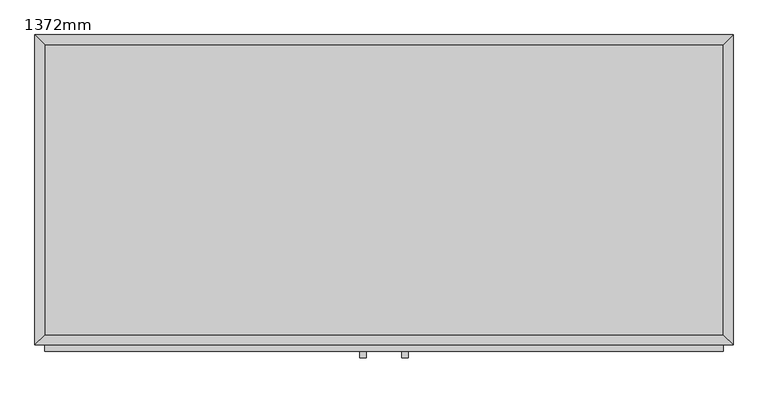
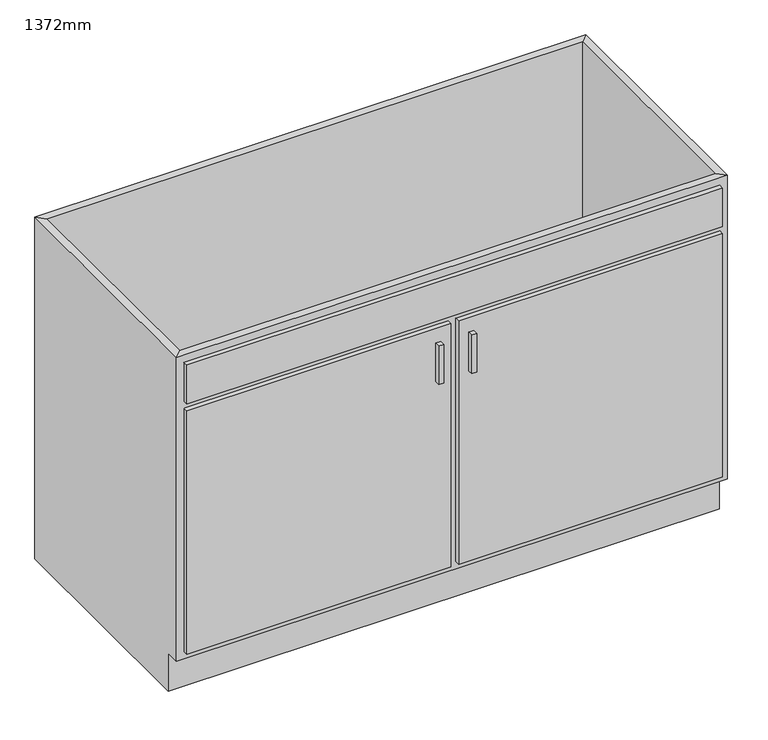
"""IFC4 building model written with IfcOpenShell, lengths in millimetres: proxy geometry, 厨房-小 : 1372mm."""

from ifc_helpers import new_model, si_unit, frame, origin, place, context, project, spatial, polyline, outline, extrude, faceted_brep, source, transform, mapped, element, save


def proxy_1372mm_f81b7602(model_context):
    return source(origin(), model_context, "Body", "SolidModel", [
        faceted_brep([(685.6877049, -590.95, 900.0), (685.6877049, -590.95, 100.0), (-648.2122951, -590.95, 100.0), (-648.2122951, -590.95, 900.0), (-667.2622951, -610.0, 900.0), (704.7377049, -610.0, 900.0), (-667.2622951, -610.0, 100.0), (704.7377049, -610.0, 100.0), (-648.2122951, -575.0, 100.0), (-648.2122951, -19.05, 100.0), (-648.2122951, -19.05, 900.0), (-667.2622951, 0.0, 900.0), (-667.2622951, 0.0, 0.0), (-667.2622951, -575.0, 0.0), (-667.2622951, -575.0, 100.0), (685.6877049, -19.05, 100.0), (685.6877049, -19.05, 900.0), (704.7377049, 0.0, 900.0), (704.7377049, 0.0, 0.0), (685.6877049, -575.0, 100.0), (704.7377049, -575.0, 100.0), (704.7377049, -575.0, 0.0)], [[[0, 1, 2, 3]], [[0, 3, 4, 5]], [[5, 4, 6, 7]], [[2, 1, 7, 6]], [[3, 2, 8, 9, 10]], [[4, 3, 10, 11]], [[6, 4, 11, 12, 13, 14]], [[2, 6, 14, 8]], [[10, 9, 15, 16]], [[11, 10, 16, 17]], [[12, 11, 17, 18]], [[1, 0, 16, 15, 19]], [[0, 5, 17, 16]], [[5, 7, 20, 21, 18, 17]], [[7, 1, 19, 20]], [[8, 19, 15, 9]], [[18, 21, 13, 12]], [[13, 21, 20, 19, 8, 14]]]),
        extrude(outline(polyline([(-16.1872951, -635.4), (-28.8872951, -635.4), (-28.8872951, -622.7), (-16.1872951, -622.7), (-16.1872951, -635.4)])), frame((0.0, 0.0, 620.6), z_axis=(0.0, 0.0, 1.0), x_axis=(1.0, 0.0, 0.0)), (0.0, 0.0, 1.0), 101.6),
        extrude(outline(polyline([(66.3627049, -635.4), (53.6627049, -635.4), (53.6627049, -622.7), (66.3627049, -622.7), (66.3627049, -635.4)])), frame((0.0, 0.0, 620.6), z_axis=(0.0, 0.0, 1.0), x_axis=(1.0, 0.0, 0.0)), (0.0, 0.0, 1.0), 101.6),
        extrude(outline(polyline([(9.2127049, -622.7), (-648.2122951, -622.7), (-648.2122951, -610.0), (9.2127049, -610.0), (9.2127049, -622.7)])), frame((0.0, 0.0, 119.05), z_axis=(0.0, 0.0, 1.0), x_axis=(1.0, 0.0, 0.0)), (0.0, 0.0, 1.0), 641.25),
        extrude(outline(polyline([(685.6877049, -622.7), (28.2627049, -622.7), (28.2627049, -610.0), (685.6877049, -610.0), (685.6877049, -622.7)])), frame((0.0, 0.0, 119.05), z_axis=(0.0, 0.0, 1.0), x_axis=(1.0, 0.0, 0.0)), (0.0, 0.0, 1.0), 641.25),
        extrude(outline(polyline([(685.6877049, -622.7), (-648.2122951, -622.7), (-648.2122951, -610.0), (685.6877049, -610.0), (685.6877049, -622.7)])), frame((0.0, 0.0, 779.35), z_axis=(0.0, 0.0, 1.0), x_axis=(1.0, 0.0, 0.0)), (0.0, 0.0, 1.0), 101.6),
        extrude(outline(polyline([(685.6877049, -19.05), (685.6877049, -590.95), (-648.2122951, -590.95), (-648.2122951, -19.05), (685.6877049, -19.05)])), frame((0.0, 0.0, 100.0), z_axis=(0.0, 0.0, 1.0), x_axis=(1.0, 0.0, 0.0)), (0.0, 0.0, 1.0), 19.05),
    ])


if __name__ == "__main__":
    model = new_model("IFC4")
    model_context = context("Model", 3, world=origin())
    ifc_project = project(units=[si_unit("LENGTHUNIT", "METRE", prefix="MILLI")], contexts=[model_context])
    site = spatial("IfcSite", under=ifc_project)
    building = spatial("IfcBuilding", under=site)
    placement = place(None, origin())
    proxy_1372mm_shape = proxy_1372mm_f81b7602(model_context)
    element("IfcBuildingElementProxy", 1, Name="厨房-小 : 1372mm", ObjectType="厨房-小 : 1372mm", at=placement, inside=building, context=model_context, shape_type="MappedRepresentation", body=[
        mapped(proxy_1372mm_shape, transform((0.0, 0.0, 0.0), x_axis=(1.0, 0.0, 0.0), y_axis=(0.0, 1.0, 0.0), z_axis=(0.0, 0.0, 1.0))),
    ])
    save(model, "model.ifc")
